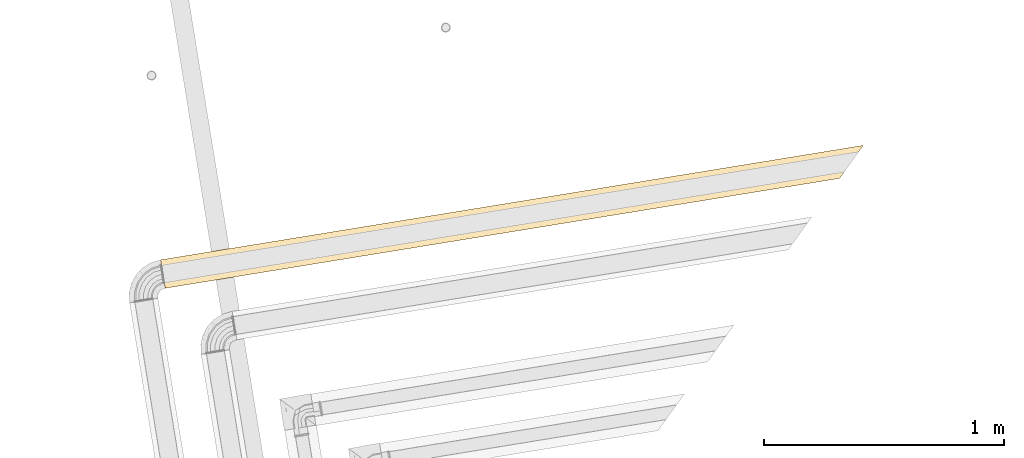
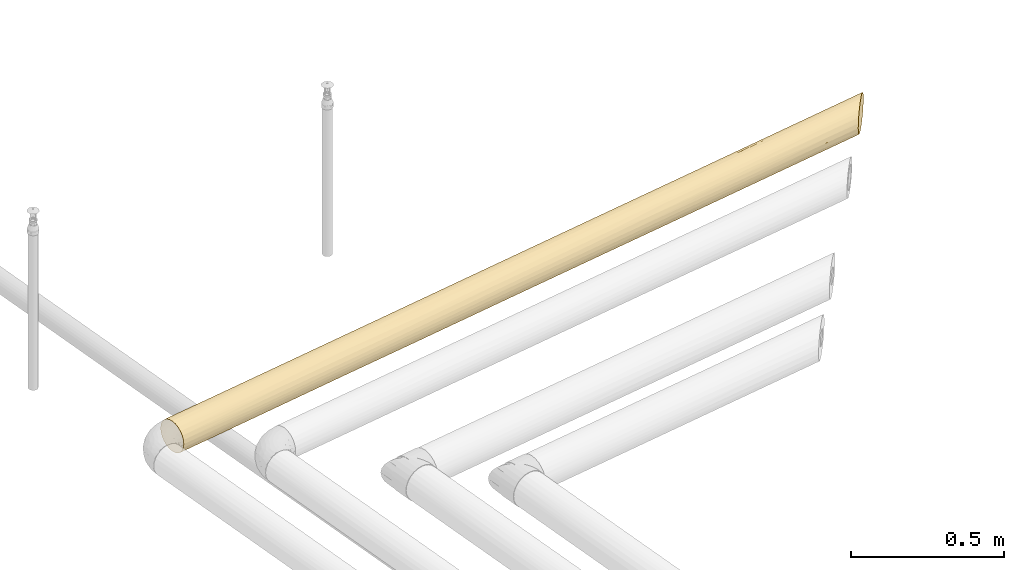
# One storey, part 7 of 46: 1 covering.
"""IFC2X3 building model written with IfcOpenShell, lengths in millimetres."""

from ifc_helpers import new_model, entity, si_unit, converted_unit, derived_unit, direction, frame, origin, origin_with_axes, place, context, subcontext, project, spatial, faceted_brep, type_object, element, save


model = new_model("IFC2X3")

# Units and contexts
model_context = context("Model", 3, precision=0.01, world=origin(), true_north=direction((6.12323399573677e-17, 1.0)))
plan_context = context("Plan", 3, precision=1e-05, world=origin_with_axes())
body_context = subcontext(model_context, "Body", "Model", "MODEL_VIEW")
ifc_project = project(units=[converted_unit("PLANEANGLEUNIT", "DEGREE", entity("IfcPositiveLengthMeasure", 0.0174532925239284), si_unit("PLANEANGLEUNIT", "RADIAN"), dimensions=[0, 0, 0, 0, 0, 0, 0]), si_unit("AREAUNIT", "SQUARE_METRE"), si_unit("LENGTHUNIT", "METRE", prefix="MILLI"), si_unit("MASSUNIT", "GRAM", prefix="KILO"), si_unit("POWERUNIT", "WATT"), si_unit("PRESSUREUNIT", "PASCAL", prefix="KILO"), si_unit("FORCEUNIT", "NEWTON", prefix="KILO"), si_unit("ELECTRICVOLTAGEUNIT", "VOLT"), si_unit("ELECTRICCURRENTUNIT", "AMPERE"), si_unit("THERMODYNAMICTEMPERATUREUNIT", "DEGREE_CELSIUS"), si_unit("TIMEUNIT", "SECOND"), si_unit("VOLUMEUNIT", "CUBIC_METRE"), derived_unit("LINEARVELOCITYUNIT", [(si_unit("LENGTHUNIT", "METRE"), 1), (si_unit("TIMEUNIT", "SECOND"), -1)]), derived_unit("VOLUMETRICFLOWRATEUNIT", [(si_unit("VOLUMEUNIT", "CUBIC_METRE"), 1), (si_unit("TIMEUNIT", "SECOND"), -1)]), derived_unit("THERMALTRANSMITTANCEUNIT", [(si_unit("POWERUNIT", "WATT"), 1), (si_unit("THERMODYNAMICTEMPERATUREUNIT", "KELVIN"), -1), (si_unit("AREAUNIT", "SQUARE_METRE"), -1)]), derived_unit("SOUNDPRESSUREUNIT", [(si_unit("PRESSUREUNIT", "PASCAL"), 1)])], contexts=[model_context, plan_context])

# Site, building, storey
site_placement = place(None, frame((-3.09682673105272e-06, 1.93776733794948e-05, 0.0), z_axis=(0.0, 0.0, 1.0), x_axis=(-0.160806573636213, 0.986985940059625, 0.0)))
site = spatial("IfcSite", under=ifc_project, at=site_placement, Name="Default", CompositionType="ELEMENT")
building_placement = place(site_placement, frame((0.0, 0.0, 0.0), z_axis=(0.0, 0.0, 1.0), x_axis=(1.0, -2.77555756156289e-17, 0.0)))
building = spatial("IfcBuilding", under=site, at=building_placement, Name="Bygning (endres i Project Information)", CompositionType="ELEMENT")
storey_placement = place(building_placement, frame((0.0, 0.0, 51360.0000000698), z_axis=(0.0, 0.0, 1.0), x_axis=(1.0, -2.77555756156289e-17, 0.0)))
storey = spatial("IfcBuildingStorey", under=building, at=storey_placement, Name="H01-Nivå D+0,36", CompositionType="ELEMENT", Elevation=51360.0000000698)

# Covering
covering_type = type_object("IfcCoveringType", Name="Pipe Insulation:GLAVA avløpsisol. slange økende 19mm (15,5-25,0)", PredefinedType="INSULATION")
covering_placement = place(storey_placement, frame((999901.722371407, -356374.315734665, 3378.35472846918), z_axis=(0.0, 0.0, 1.0), x_axis=(1.0, -2.77555756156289e-17, 0.0)))
element("IfcCovering", 1, at=covering_placement, inside=storey, type_object=covering_type, Name="Pipe Insulation:GLAVA avløpsisol. slange økende 19mm (15,5-25,0)", ObjectType="Pipe Insulation:GLAVA avløpsisol. slange økende 19mm (15,5-25,0)", PredefinedType="INSULATION", context=body_context, shape_type="Brep", body=[
    faceted_brep([(46.103188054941, 9530.41657930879, 3.64142634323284), (61.6452715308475, 9530.41657930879, 1.5952722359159), (77.1873550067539, 9530.41657930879, 3.64142634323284), (91.6702711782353, 9530.41657930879, 9.64044664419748), (104.107033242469, 9530.41657930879, 19.183509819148), (113.650096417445, 9530.41657930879, 31.6202718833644), (119.649116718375, 9530.41657930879, 46.1031880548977), (121.695270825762, 9530.41657930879, 61.6452715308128), (119.649116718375, 9530.41657930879, 77.1873550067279), (113.650096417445, 9530.41657930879, 91.6702711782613), (104.107033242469, 9530.41657930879, 104.107033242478), (91.6702711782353, 9530.41657930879, 113.650096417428), (77.1873550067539, 9530.41657930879, 119.649116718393), (61.6452715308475, 9530.41657930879, 121.69527082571), (46.103188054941, 9530.41657930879, 119.649116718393), (31.6202718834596, 9530.41657930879, 113.650096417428), (19.1835098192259, 9530.41657930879, 104.107033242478), (9.64044664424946, 9530.41657930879, 91.6702711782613), (3.64142634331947, 9530.41657930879, 77.1873550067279), (1.59527223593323, 9530.41657930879, 61.6452715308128), (3.64142634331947, 9530.41657930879, 46.1031880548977), (9.64044664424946, 9530.41657930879, 31.6202718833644), (19.1835098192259, 9530.41657930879, 19.183509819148), (31.6202718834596, 9530.41657930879, 9.64044664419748), (51.1323782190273, 9204.55631991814, 2.52267441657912), (61.6452715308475, 8989.25859969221, 1.59527223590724), (72.158164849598, 9204.55631963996, 2.52267441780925), (84.6254113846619, 9280.63865907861, 6.16630625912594), (84.6254113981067, 8955.32888914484, 6.16630626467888), (73.1730480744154, 8878.96736822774, 2.71215025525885), (80.9802895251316, 8686.04738103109, 4.79318718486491), (95.2146499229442, 8834.68603758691, 11.8547177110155), (98.2013949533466, 8507.65318007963, 14.004404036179), (81.1113570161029, 8397.65684451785, 4.83793106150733), (61.6452715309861, 8448.10138586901, 1.5952722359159), (61.6452715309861, 7906.94340625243, 1.5952722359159), (79.6262565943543, 7875.53984819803, 4.3505371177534), (94.8385754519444, 8061.08700323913, 11.6032193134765), (93.3640399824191, 7603.62684897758, 10.6558398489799), (106.951191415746, 7775.0085751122, 22.2323797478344), (100.422427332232, 7309.33263080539, 15.7940490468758), (93.0885232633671, 7061.15317323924, 10.4854793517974), (105.155199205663, 7010.1001615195, 20.2582130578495), (92.576107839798, 6715.03516585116, 10.1740584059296), (102.604651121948, 6621.34252251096, 17.7324984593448), (111.144080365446, 6699.51510373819, 27.6471783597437), (103.13865527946, 6578.66330352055, 18.2895290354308), (110.035826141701, 6571.76613265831, 26.2047509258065), (112.881116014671, 6568.92084278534, 30.5554970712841), (116.012727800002, 6565.78923100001, 36.289404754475), (117.318628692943, 6782.13386549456, 39.1401672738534), (118.059394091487, 6563.74256470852, 42.9889371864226), (120.680904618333, 6701.07416086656, 50.6545280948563), (118.645248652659, 7123.85335773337, 42.7506949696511), (121.6952708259, 6849.98764542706, 61.6452715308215), (121.640784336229, 6560.16117446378, 61.0549058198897), (121.695270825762, 6560.10668797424, 61.6452715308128), (120.777087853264, 6561.02487094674, 71.0751845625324), (121.695270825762, 6715.64005820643, 61.6452715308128), (55.5163407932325, 6626.28561800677, 121.095191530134), (46.5237526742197, 6635.27820612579, 119.626042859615), (49.9980184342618, 6838.51796387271, 120.554896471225), (61.6452715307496, 6620.15668726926, 121.69527082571), (61.6452715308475, 7040.71451137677, 121.69527082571), (49.2728124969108, 7150.36137890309, 120.40686334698), (61.6452715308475, 7365.7846228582, 121.69527082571), (44.0260602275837, 7427.80467454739, 119.052290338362), (39.4128376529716, 6999.15277334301, 117.428076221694), (28.5264958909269, 7070.23302245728, 111.736679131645), (39.2180528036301, 6688.47907110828, 117.350049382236), (36.7329653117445, 6645.06899348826, 116.097444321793), (29.829543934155, 6651.97241486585, 112.567481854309), (26.6711364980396, 6655.13082230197, 110.215462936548), (22.3022443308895, 6808.46671671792, 107.011874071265), (19.2483616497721, 7172.34562105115, 104.171786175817), (21.5659241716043, 7468.95120938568, 106.362699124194), (29.9265030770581, 7603.62684723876, 112.634703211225), (17.162171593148, 7729.70746946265, 101.984535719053), (9.81410227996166, 7552.62138068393, 91.9690626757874), (8.1762273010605, 7916.00389468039, 88.9777380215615), (3.29306478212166, 7636.36404507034, 75.8235077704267), (7.16408985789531, 7210.26579431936, 86.9000385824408), (2.74621527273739, 7139.92988915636, 73.345852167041), (4.22242348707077, 6789.57864642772, 79.212825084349), (11.892231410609, 6809.86130085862, 95.2702237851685), (11.2392997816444, 6670.56265901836, 94.2535438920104), (6.53287477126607, 6675.26908402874, 84.356566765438), (14.748688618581, 6667.05327018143, 98.7321637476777), (61.6452715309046, 6620.1566872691, 1.5952722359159), (67.4720035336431, 6614.32995526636, 2.07600602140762), (61.6452715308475, 6824.62668830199, 1.5952722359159), (73.1240737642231, 6608.67788503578, 2.73986298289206), (75.7009391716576, 6827.89784085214, 3.2634197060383), (61.6452715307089, 7095.2059882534, 1.5952722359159), (61.6452715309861, 7040.71371527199, 1.59527223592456), (82.1471426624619, 7099.3719012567, 5.20348120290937), (80.9960800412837, 6600.80587875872, 4.90417003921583), (86.9410771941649, 6594.86088160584, 7.43183193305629), (93.385887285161, 6588.41607151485, 10.6967183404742), (78.8548979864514, 7411.03469767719, 4.11413932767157), (61.6452715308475, 7365.78542663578, 1.5952722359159), (44.0260603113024, 7427.80468665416, 4.23825269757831), (50.6877317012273, 6878.17696034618, 2.60346654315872), (39.4128380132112, 6999.15278865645, 5.86246669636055), (30.1159137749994, 7238.28459159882, 10.5385007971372), (27.4167482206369, 6767.19229471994, 12.3055248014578), (19.2483619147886, 7172.34562435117, 19.118756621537), (18.804323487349, 6744.93346354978, 19.5661129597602), (18.9081569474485, 6662.89380185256, 19.4613438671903), (24.6030708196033, 6657.1988879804, 14.6560495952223), (16.4604446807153, 6665.34151411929, 22.5049049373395), (39.2787826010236, 6642.52317619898, 6.13442362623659), (41.7492333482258, 6640.05272545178, 4.98788408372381), (41.6125718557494, 6697.7083107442, 5.03526041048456), (28.5856485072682, 6653.21631029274, 11.5507522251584), (56.2927116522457, 6625.50924714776, 2.4790919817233), (61.6452715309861, 6715.64123811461, 1.5952722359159), (1.59527223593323, 6680.20668656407, 61.6452715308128), (1.97773991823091, 6679.82421888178, 57.9377540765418), (1.59527223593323, 6824.62723873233, 61.6452715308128), (2.09324116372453, 6679.70871763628, 66.4162337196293), (3.78713675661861, 6678.01482204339, 77.5253195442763), (3.8514783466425, 6677.95048045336, 48.5935610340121), (4.89288011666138, 6676.90907868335, 42.0492459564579), (4.27346682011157, 6937.75522317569, 43.9117315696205), (7.37321475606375, 6674.42874404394, 36.95713356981), (11.9147303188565, 6825.63729481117, 27.9870528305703), (7.16408996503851, 7210.26578773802, 36.3905042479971), (12.3333224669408, 7116.36929388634, 27.3767131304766), (9.81410237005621, 7552.62137744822, 31.3214802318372), (3.50434064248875, 7604.8574394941, 46.6241340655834), (2.94414763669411, 7254.92355837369, 48.9890292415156), (1.59527223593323, 7365.78510684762, 61.6452715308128), (1.59527223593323, 7906.94297496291, 61.6452715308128), (3.2466437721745, 8072.19239427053, 75.6310747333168), (1.59527223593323, 8448.1008430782, 61.6452715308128), (2.86106187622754, 8399.89136457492, 73.9098184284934), (6.6350072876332, 8367.92580962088, 85.7258288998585), (6.16630624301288, 8828.72353540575, 84.6254113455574), (2.70910362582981, 8887.6261689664, 73.1574619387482), (6.16630624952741, 9210.52193687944, 84.6254113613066), (14.0044039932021, 9086.71441883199, 98.2013948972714), (13.7482800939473, 8639.08953899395, 97.8651642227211), (28.0758931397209, 8834.68603686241, 111.435825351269), (25.0891481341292, 9161.71889465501, 109.286139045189), (38.6651316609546, 8955.32888853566, 117.124236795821), (42.3102535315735, 8686.04738016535, 118.497355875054), (25.08914810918, 8507.6531790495, 109.28613902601), (42.1791860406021, 8397.65684337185, 118.452611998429), (61.6452715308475, 8448.10060108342, 121.69527082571), (50.1174949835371, 8878.96736740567, 120.578392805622), (61.6452715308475, 8989.25859019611, 121.695270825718), (51.1323782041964, 9204.55631931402, 120.767868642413), (38.6651316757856, 9280.63865883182, 117.124236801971), (71.9232377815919, 9209.42777705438, 120.809161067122), (73.1574619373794, 8887.62616929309, 120.581439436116), (84.6254113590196, 9210.52193701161, 117.12423681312), (98.2013948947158, 9086.71441901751, 109.286139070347), (84.6254113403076, 8828.72353568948, 117.124236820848), (97.8651642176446, 8639.08953932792, 109.542262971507), (85.7258288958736, 8367.92581041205, 116.655535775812), (73.9098184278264, 8399.89136537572, 120.429481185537), (75.6310747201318, 8072.19239523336, 120.043899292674), (61.6452715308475, 7906.94261197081, 121.69527082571), (75.8235077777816, 7636.36404525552, 119.997478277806), (78.091613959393, 7147.68959005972, 119.399234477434), (89.2426682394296, 7517.04178465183, 114.978057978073), (88.977738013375, 7916.00389596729, 115.114315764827), (101.984535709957, 7729.70747031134, 106.128371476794), (105.42965319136, 7340.58763322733, 102.74186917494), (94.8925383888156, 7157.90007148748, 111.651487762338), (104.767133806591, 6932.33904735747, 103.436507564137), (112.844830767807, 7271.94519779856, 93.0237283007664), (112.634703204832, 7603.62684752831, 93.364039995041), (119.176403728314, 7411.03469593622, 78.8548980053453), (113.966784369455, 6945.32849297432, 91.1149459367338), (119.857285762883, 6878.17695790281, 76.3885348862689), (117.343998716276, 6639.13477727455, 84.087513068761), (115.053431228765, 6566.74852757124, 88.517073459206), (112.517075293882, 6569.28488350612, 93.5213706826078), (110.601814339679, 6571.20014446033, 96.0808369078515), (104.286194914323, 6577.51576388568, 103.925042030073), (87.1940156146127, 6594.60794318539, 115.989112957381), (85.3210932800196, 6596.48086551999, 116.641109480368), (87.1650203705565, 6626.96051829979, 116.002836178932), (90.49035221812, 6591.31160658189, 113.667960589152), (101.15080540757, 6580.65115339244, 106.569987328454), (95.7426675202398, 6828.19876090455, 111.075727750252), (75.6864738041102, 6791.2660741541, 120.030604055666), (61.6452715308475, 6824.62663374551, 121.69527082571), (75.4339471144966, 6606.36801168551, 120.090205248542), (68.8955361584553, 6612.90642264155, 120.866810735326), (117.355487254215, 6564.44647154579, 84.0589089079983), (119.528101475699, 6562.27385732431, 76.7301914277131), (120.495603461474, 6561.30635533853, 73.5485835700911), (121.695270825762, 7040.71260202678, 61.6452715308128), (121.695270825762, 7906.94256741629, 61.6452715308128), (121.695270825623, 7797.95763519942, 61.6452715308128), (121.695270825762, 7472.88525916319, 61.6452715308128), (121.695270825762, 7365.78339866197, 61.6452715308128), (121.695270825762, 7147.8128831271, 61.6452715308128), (118.940005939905, 7875.53984691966, 79.6262566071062), (118.452611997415, 8397.65684357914, 81.1113570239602), (121.695270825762, 8448.10238727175, 61.6452715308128), (121.695270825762, 8123.03001123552, 61.6452715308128), (118.497355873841, 8686.04738035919, 80.9802895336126), (120.578392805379, 8878.96736768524, 73.1730480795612), (117.124236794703, 8955.32888872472, 84.6254114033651), (111.435825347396, 8834.68603708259, 95.2146499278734), (109.286139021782, 8507.65317931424, 98.2013949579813), (100.66918575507, 8187.16762491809, 107.286662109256), (111.687323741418, 8061.08700212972, 94.8385754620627), (109.286139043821, 9161.71889482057, 98.2013949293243), (117.124236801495, 9280.63865889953, 84.6254113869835), (120.767868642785, 9204.5563194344, 72.1581648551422), (121.695270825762, 8989.25858599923, 61.6452715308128), (120.80916106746, 9209.42777722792, 51.3673052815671), (120.581439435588, 8887.6261697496, 50.1330811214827), (120.43275555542, 8396.40598860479, 49.3964292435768), (117.1242368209, 8828.72353607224, 38.665131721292), (116.6555357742, 8367.92581125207, 37.564714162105), (120.303581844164, 8065.68649252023, 48.7920600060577), (115.114315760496, 7916.00389729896, 34.3128050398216), (119.74386150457, 7771.96191209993, 46.4611924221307), (116.373209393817, 7636.7210281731, 36.9297858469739), (109.243411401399, 7373.95016072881, 25.0335316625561), (115.51745148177, 7351.93772787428, 35.1162187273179), (113.217703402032, 7040.25406064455, 30.8834983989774), (119.453130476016, 7472.88453998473, 45.389384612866), (107.28666210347, 8187.16762598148, 22.6213572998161), (109.542262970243, 8639.08953989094, 25.4253788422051), (109.286139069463, 9086.71441927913, 25.0891481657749), (98.2013949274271, 9161.71889506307, 14.0044040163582), (117.124236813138, 9210.52193717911, 38.6651317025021), (43.6642864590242, 7875.53984654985, 118.940005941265), (28.4519676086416, 8061.08700185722, 111.687323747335), (16.0038809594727, 8187.16762407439, 100.669185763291), (2.48138199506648, 9209.42777694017, 71.923237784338), (1.59527223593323, 8989.2587111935, 61.6452715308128), (2.70910363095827, 8887.62616979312, 50.1330810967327), (2.86106188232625, 8399.89136322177, 49.3807246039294), (3.2466437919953, 8072.19239317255, 47.6594682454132), (6.63500731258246, 8367.9258092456, 37.564714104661), (6.16630625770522, 8828.72353577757, 38.6651316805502), (13.748280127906, 8639.08954069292, 25.4253787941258), (16.0038810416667, 8187.16762518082, 22.6213572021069), (25.0891481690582, 8507.65318274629, 14.0044039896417), (28.0758932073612, 8834.68603897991, 11.8547176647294), (42.3102535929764, 8686.0473837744, 4.79318716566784), (38.6651317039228, 8955.3288903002, 6.16630624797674), (50.1174950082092, 8878.96736933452, 2.71215025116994), (42.1791860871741, 8397.65684884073, 4.83793104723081), (38.6651316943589, 9280.63865970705, 6.16630625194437), (25.0891481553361, 9161.71889522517, 14.0044040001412), (14.004404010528, 9086.71441928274, 25.0891481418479), (6.16630625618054, 9210.52193695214, 38.66513168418), (2.48138199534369, 9209.42777734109, 51.3673052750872), (28.4519677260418, 8061.08700802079, 11.6032192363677), (43.6642865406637, 7875.53985361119, 4.35053709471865), (29.9265032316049, 7603.62685569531, 10.6558397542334), (17.1621717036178, 7729.70747289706, 21.3060072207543), (21.5659243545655, 7468.95121352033, 16.9278437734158), (8.17622736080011, 7916.00389375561, 34.3128049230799), (11.5414981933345, 6670.26046060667, 28.5535851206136), (21.0337439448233, 6660.76821485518, 105.83037186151), (12.3153873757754, 7104.01879868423, 95.8880071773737), (39.7041966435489, 6642.09776215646, 117.530276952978), (120.483912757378, 6561.31804604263, 49.7468038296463), (101.920789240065, 6579.88116955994, 17.1818421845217)], [[[0, 1, 2, 3, 4, 5, 6, 7, 8, 9, 10, 11, 12, 13, 14, 15, 16, 17, 18, 19, 20, 21, 22, 23]], [[24, 25, 1]], [[25, 26, 1]], [[1, 26, 2]], [[26, 27, 2]], [[27, 26, 28]], [[26, 29, 28]], [[29, 30, 28]], [[31, 28, 30]], [[32, 31, 30]], [[33, 32, 30]], [[33, 30, 34]], [[34, 35, 33]], [[35, 36, 33]], [[36, 37, 33]], [[37, 36, 38]], [[38, 39, 37]], [[38, 40, 39]], [[40, 38, 41]], [[41, 42, 40]], [[41, 43, 42]], [[44, 42, 43]], [[42, 44, 45]], [[46, 47, 45, 44]], [[47, 48, 45]], [[48, 49, 50, 45]], [[49, 51, 52, 50]], [[50, 52, 53]], [[53, 52, 54]], [[55, 56, 54, 52]], [[56, 57, 58]], [[59, 60, 61]], [[62, 59, 61, 63]], [[64, 63, 61]], [[63, 64, 65]], [[64, 66, 65]], [[67, 66, 64]], [[66, 67, 68]], [[67, 69, 68]], [[70, 71, 68, 69]], [[71, 72, 73, 68]], [[74, 68, 73]], [[74, 75, 68]], [[76, 68, 75]], [[76, 75, 77]], [[77, 75, 78]], [[77, 78, 79]], [[79, 78, 80]], [[81, 80, 78]], [[81, 82, 80]], [[82, 81, 83]], [[84, 83, 81]], [[85, 86, 83, 84]], [[87, 85, 84]], [[88, 89, 90]], [[89, 91, 92, 90]], [[93, 94, 90, 92]], [[92, 95, 93]], [[43, 95, 92]], [[96, 97, 43, 92]], [[97, 98, 43]], [[99, 93, 95]], [[41, 99, 95]], [[100, 93, 99, 35]], [[94, 93, 100, 35, 101]], [[101, 102, 94]], [[103, 102, 101]], [[101, 104, 103]], [[105, 103, 104]], [[106, 105, 104]], [[105, 106, 107]], [[108, 109, 105, 107]], [[110, 108, 107]], [[111, 112, 113]], [[114, 111, 113, 105]], [[112, 115, 116, 113]], [[116, 102, 113]], [[117, 118, 119]], [[120, 117, 119]], [[121, 120, 119, 83]], [[118, 122, 119]], [[122, 123, 124, 119]], [[123, 125, 126, 124]], [[127, 124, 126]], [[128, 127, 126]], [[128, 126, 107]], [[127, 128, 129]], [[127, 129, 130]], [[127, 130, 131]], [[131, 130, 132]], [[131, 132, 119]], [[132, 82, 119]], [[130, 133, 132]], [[132, 133, 80]], [[133, 134, 80]], [[133, 135, 134]], [[136, 134, 135]], [[137, 134, 136]], [[138, 137, 136]], [[139, 138, 136]], [[138, 139, 140]], [[138, 140, 141]], [[138, 141, 142]], [[143, 142, 141]], [[141, 144, 143]], [[145, 143, 144]], [[143, 145, 146]], [[147, 143, 146]], [[148, 147, 146]], [[148, 146, 149]], [[149, 146, 150]], [[150, 151, 149]], [[150, 152, 151]], [[151, 152, 13]], [[13, 152, 14]], [[152, 153, 14]], [[153, 152, 145]], [[15, 14, 153]], [[15, 153, 144]], [[15, 144, 16]], [[154, 151, 13]], [[155, 151, 154]], [[155, 154, 156]], [[12, 156, 154]], [[12, 11, 156]], [[157, 156, 11]], [[158, 156, 157]], [[158, 157, 159]], [[158, 159, 160]], [[158, 160, 161]], [[160, 162, 161]], [[161, 162, 149]], [[161, 149, 155]], [[163, 149, 162]], [[163, 162, 164]], [[65, 163, 164]], [[65, 164, 165]], [[164, 166, 165]], [[164, 167, 166]], [[167, 168, 166]], [[169, 166, 168]], [[169, 170, 166]], [[170, 169, 171]], [[169, 172, 171]], [[169, 173, 172]], [[173, 174, 172]], [[175, 172, 174]], [[175, 174, 176]], [[177, 175, 176]], [[178, 179, 175, 177]], [[179, 180, 171, 175]], [[180, 181, 171]], [[182, 183, 184]], [[185, 182, 184]], [[186, 185, 184, 187]], [[184, 165, 187]], [[170, 187, 165]], [[188, 165, 184]], [[188, 189, 165]], [[190, 191, 189, 188]], [[183, 190, 188, 184]], [[181, 186, 187, 171]], [[192, 178, 177]], [[193, 192, 177]], [[194, 193, 177, 176]], [[195, 176, 174]], [[196, 197, 198, 199, 200, 195, 174]], [[174, 201, 196]], [[196, 201, 202]], [[203, 204, 196, 202]], [[202, 205, 203]], [[203, 205, 206]], [[206, 205, 207]], [[208, 207, 205]], [[209, 208, 205]], [[209, 159, 208]], [[209, 210, 159]], [[210, 209, 211]], [[211, 209, 202]], [[211, 168, 210]], [[173, 168, 211]], [[211, 201, 173]], [[207, 208, 212]], [[157, 212, 208]], [[10, 212, 157]], [[212, 10, 9]], [[9, 213, 212]], [[9, 8, 213]], [[214, 213, 8]], [[213, 214, 207]], [[7, 214, 8]], [[215, 214, 7]], [[206, 214, 215]], [[216, 215, 7]], [[217, 215, 216]], [[217, 203, 215]], [[218, 203, 217]], [[217, 219, 218]], [[219, 220, 218]], [[220, 221, 218]], [[222, 221, 220]], [[221, 222, 223]], [[221, 223, 197]], [[224, 223, 222]], [[222, 39, 224]], [[224, 39, 225]], [[225, 226, 224]], [[225, 227, 226]], [[53, 226, 227]], [[228, 226, 53]], [[228, 53, 200]], [[227, 225, 42]], [[226, 228, 224]], [[229, 39, 222]], [[228, 223, 224]], [[228, 198, 223]], [[229, 222, 220]], [[229, 220, 230]], [[230, 32, 229]], [[37, 229, 32]], [[221, 204, 218]], [[219, 230, 220]], [[219, 231, 230]], [[31, 230, 231]], [[231, 232, 31]], [[4, 232, 231]], [[4, 231, 5]], [[231, 233, 5]], [[6, 5, 233]], [[6, 233, 216]], [[232, 4, 3]], [[3, 27, 232]], [[219, 233, 231]], [[219, 217, 233]], [[217, 216, 233]], [[6, 216, 7]], [[207, 212, 213]], [[214, 206, 207]], [[206, 215, 203]], [[202, 209, 205]], [[203, 218, 204]], [[201, 211, 202]], [[197, 196, 204, 221]], [[200, 199, 198, 228]], [[197, 223, 198]], [[174, 173, 201]], [[172, 175, 171]], [[170, 171, 187]], [[173, 169, 168]], [[167, 210, 168]], [[210, 167, 160]], [[170, 165, 166]], [[162, 167, 164]], [[167, 162, 160]], [[155, 158, 161]], [[210, 160, 159]], [[208, 159, 157]], [[10, 157, 11]], [[158, 155, 156]], [[12, 154, 13]], [[152, 150, 145]], [[155, 149, 151]], [[149, 163, 148]], [[163, 234, 148]], [[234, 235, 148]], [[235, 234, 76]], [[76, 234, 66]], [[66, 234, 163]], [[235, 147, 148]], [[236, 147, 235]], [[235, 77, 236]], [[147, 236, 142]], [[236, 137, 142]], [[236, 79, 137]], [[150, 146, 145]], [[145, 144, 153]], [[16, 144, 141]], [[16, 141, 17]], [[147, 142, 143]], [[141, 140, 17]], [[18, 17, 140]], [[18, 140, 237]], [[18, 237, 19]], [[237, 238, 19]], [[139, 238, 237]], [[139, 135, 238]], [[239, 238, 135]], [[135, 240, 239]], [[240, 135, 241]], [[240, 241, 242]], [[242, 243, 240]], [[244, 243, 242]], [[242, 245, 244]], [[246, 244, 245]], [[246, 247, 244]], [[248, 247, 246]], [[249, 247, 248]], [[250, 249, 248]], [[250, 248, 34]], [[25, 250, 34]], [[29, 25, 34]], [[248, 251, 34]], [[249, 250, 24]], [[24, 252, 249]], [[249, 252, 253]], [[23, 253, 252]], [[253, 23, 22]], [[253, 22, 254]], [[254, 247, 253]], [[22, 21, 254]], [[21, 255, 254]], [[254, 255, 243]], [[243, 255, 239]], [[255, 256, 239]], [[255, 20, 256]], [[19, 256, 20]], [[21, 20, 255]], [[23, 252, 0]], [[0, 252, 24]], [[249, 253, 247]], [[251, 248, 246]], [[257, 251, 246]], [[257, 258, 251]], [[257, 259, 258]], [[101, 258, 259]], [[260, 259, 257]], [[259, 260, 261]], [[259, 261, 104]], [[261, 260, 129]], [[106, 261, 129]], [[260, 262, 129]], [[260, 245, 262]], [[260, 257, 245]], [[251, 258, 35]], [[247, 254, 244]], [[246, 245, 257]], [[242, 262, 245]], [[244, 254, 243]], [[242, 241, 262]], [[130, 262, 241]], [[243, 239, 240]], [[256, 238, 239]], [[238, 256, 19]], [[139, 237, 140]], [[138, 142, 137]], [[79, 134, 137]], [[136, 135, 139]], [[133, 241, 135]], [[130, 241, 133]], [[262, 130, 129]], [[129, 128, 106]], [[127, 131, 124]], [[125, 263, 126]], [[119, 124, 131]], [[263, 110, 107, 126]], [[109, 114, 105]], [[107, 106, 128]], [[104, 261, 106]], [[103, 105, 113]], [[259, 104, 101]], [[102, 103, 113]], [[258, 101, 35]], [[115, 88, 116]], [[116, 90, 94, 102]], [[91, 96, 92]], [[264, 87, 84, 73]], [[84, 265, 73]], [[86, 121, 83]], [[81, 265, 84]], [[82, 83, 119]], [[132, 80, 82]], [[265, 81, 78]], [[74, 265, 78]], [[79, 80, 134]], [[79, 236, 77]], [[77, 235, 76]], [[78, 75, 74]], [[265, 74, 73]], [[72, 264, 73]], [[266, 70, 69]], [[61, 69, 67]], [[76, 66, 68]], [[65, 66, 163]], [[64, 61, 67]], [[189, 63, 65, 165]], [[60, 266, 69, 61]], [[191, 62, 189]], [[57, 194, 176, 58]], [[195, 54, 58, 176]], [[267, 55, 52]], [[54, 195, 200, 53]], [[227, 50, 53]], [[51, 267, 52]], [[50, 227, 45]], [[268, 46, 44]], [[227, 42, 45]], [[98, 268, 44, 43]], [[41, 95, 43]], [[225, 40, 42]], [[99, 41, 38]], [[225, 39, 40]], [[37, 39, 229]], [[99, 38, 36]], [[36, 35, 99]], [[34, 251, 35]], [[37, 32, 33]], [[32, 230, 31]], [[28, 31, 232]], [[34, 30, 29]], [[28, 232, 27]], [[27, 3, 2]], [[29, 26, 25]], [[250, 25, 24]], [[0, 24, 1]], [[268, 98, 97, 96, 91, 89, 88, 115, 112, 111, 114, 109, 108, 110, 263, 125, 123, 122, 118, 117, 120, 121, 86, 85, 87, 264, 72, 71, 70, 266, 60, 59, 62, 191, 190, 183, 182, 185, 186, 181, 180, 179, 178, 192, 193, 194, 57, 56, 55, 267, 51, 49, 48, 47, 46]]], orient=[[False], [False], [False], [False], [False], [False], [False], [False], [False], [False], [False], [False], [False], [False], [False], [False], [False], [False], [False], [False], [False], [False], [False], [False], [False], [False], [False], [False], [False], [False], [False], [False], [False], [False], [False], [False], [False], [False], [False], [False], [False], [False], [False], [False], [False], [False], [False], [False], [False], [False], [False], [False], [False], [False], [False], [False], [False], [False], [False], [False], [False], [False], [False], [False], [False], [False], [False], [False], [False], [False], [False], [False], [False], [False], [False], [False], [False], [False], [False], [False], [False], [False], [False], [False], [False], [False], [False], [False], [False], [False], [False], [False], [False], [False], [False], [False], [False], [False], [False], [False], [False], [False], [False], [False], [False], [False], [False], [False], [False], [False], [False], [False], [False], [False], [False], [False], [False], [False], [False], [False], [False], [False], [False], [False], [False], [False], [False], [False], [False], [False], [False], [False], [False], [False], [False], [False], [False], [False], [False], [False], [False], [False], [False], [False], [False], [False], [False], [False], [False], [False], [False], [False], [False], [False], [False], [False], [False], [False], [False], [False], [False], [False], [False], [False], [False], [False], [False], [False], [False], [False], [False], [False], [False], [False], [False], [False], [False], [False], [False], [False], [False], [False], [False], [False], [False], [False], [False], [False], [False], [False], [False], [False], [False], [False], [False], [False], [False], [False], [False], [False], [False], [False], [False], [False], [False], [False], [False], [False], [False], [False], [False], [False], [False], [False], [False], [False], [False], [False], [False], [False], [False], [False], [False], [False], [False], [False], [False], [False], [False], [False], [False], [False], [False], [False], [False], [False], [False], [False], [False], [False], [False], [False], [False], [False], [False], [False], [False], [False], [False], [False], [False], [False], [False], [False], [False], [False], [False], [False], [False], [False], [False], [False], [False], [False], [False], [False], [False], [False], [False], [False], [False], [False], [False], [False], [False], [False], [False], [False], [False], [False], [False], [False], [False], [False], [False], [False], [False], [False], [False], [False], [False], [False], [False], [False], [False], [False], [False], [False], [False], [False], [False], [False], [False], [False], [False], [False], [False], [False], [False], [False], [False], [False], [False], [False], [False], [False], [False], [False], [False], [False], [False], [False], [False], [False], [False], [False], [False], [False], [False], [False], [False], [False], [False], [False], [False], [False], [False], [False], [False], [False], [False], [False], [False], [False], [False], [False], [False], [False], [False], [False], [False], [False], [False], [False], [False], [False], [False], [False], [False], [False], [False], [False], [False], [False], [False], [False], [False], [False], [False], [False], [False], [False], [False], [False], [False], [False], [False], [False], [False], [False], [False], [False], [False], [False], [False], [False], [False], [False], [False], [False], [False], [False], [False], [False], [False], [False], [False], [False], [False], [False], [False], [False], [False], [False], [False], [False], [False], [False], [False], [False], [False], [False], [False], [False], [False]]),
])

save(model, "model.ifc")
